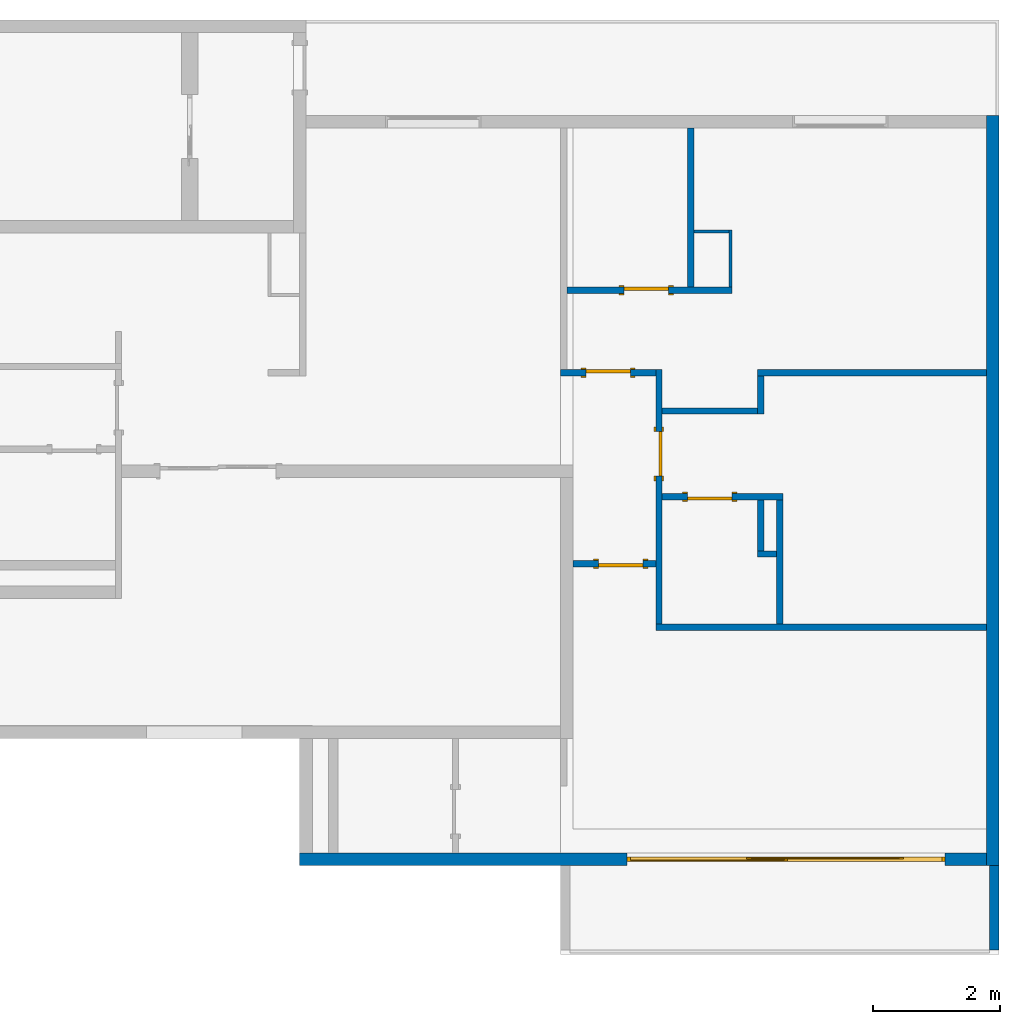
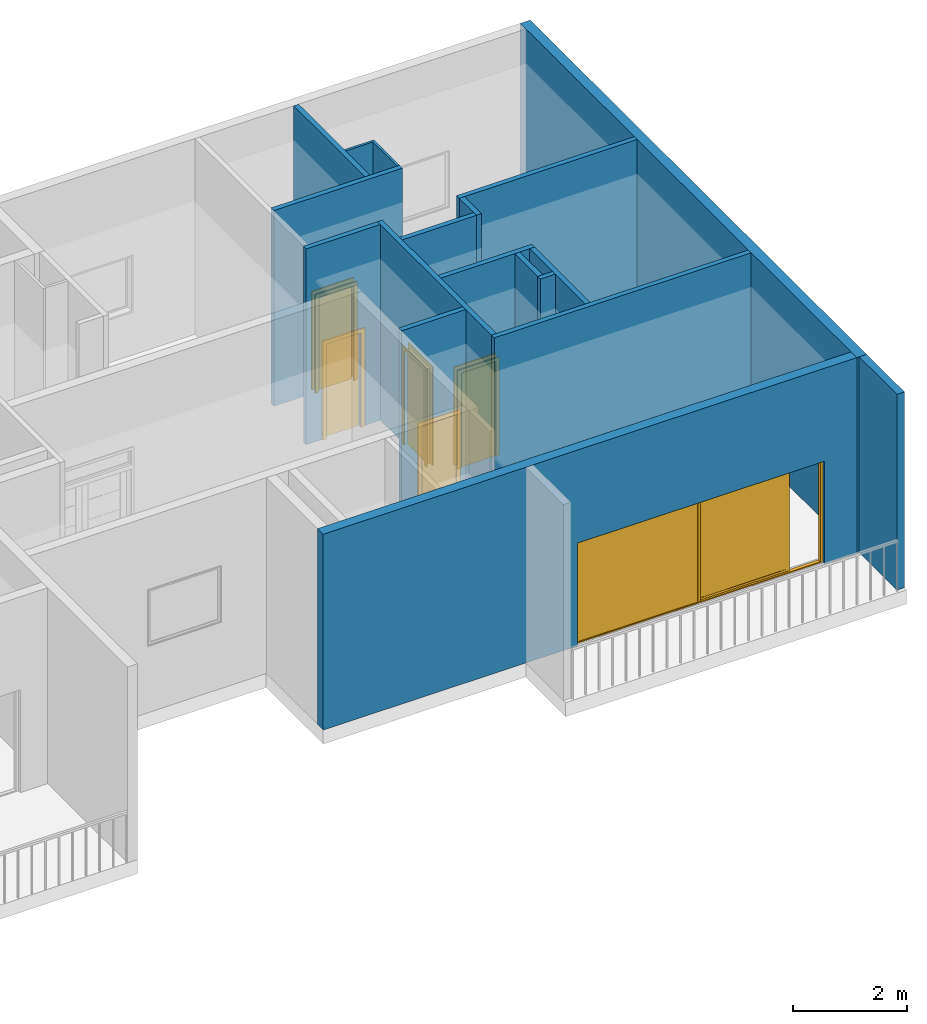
# One storey, part 4 of 7: 18 walls, 6 doors, 6 openings.
"""IFC2X3 building model written with IfcOpenShell, lengths in metres."""

import ifcopenshell
import ifcopenshell.guid

model = None  # the IFC model being written
_history = None  # IfcOwnerHistory: only IFC2X3 demands one
_inside = {}  # id of a spatial element -> (the spatial element, [elements in it])
_under = {}  # id of a project, library or spatial element -> (it, [spatial elements below it])
_declared = {}  # id of a project -> (the project, [libraries it declares])
_typed = {}  # id of a type object -> (the type object, [elements of that type])
_made_of = {}  # id of a material, layer set ... -> (it, [elements and type objects made of it])


def new_model(schema):
    """Start an empty IFC model of exactly this schema.

    Asked for "IFC4X3", IfcOpenShell would pick the latest addendum, in which some entities
    have other attributes; the version numbers below select the first issue.
    IFC2X3 requires an IfcOwnerHistory on every rooted entity: one is made here for all.
    """
    global model, _history
    if schema == "IFC4X3":
        model = ifcopenshell.file(schema_version=(4, 3, 0, 0))
    else:
        model = ifcopenshell.file(schema=schema)
    _inside.clear()
    _under.clear()
    _declared.clear()
    _typed.clear()
    _made_of.clear()
    _history = None
    if model.schema == "IFC2X3":
        org = make("IfcOrganization", Name="unknown")
        user = make(
            "IfcPersonAndOrganization",
            ThePerson=make("IfcPerson", FamilyName="unknown"),
            TheOrganization=org,
        )
        app = make(
            "IfcApplication",
            ApplicationDeveloper=org,
            Version="unknown",
            ApplicationFullName="unknown",
            ApplicationIdentifier="unknown",
        )
        _history = make(
            "IfcOwnerHistory",
            OwningUser=user,
            OwningApplication=app,
            ChangeAction="ADDED",
            CreationDate=0,
        )
    return model


def make(cls, **values):
    """One entity of the class cls with the attributes given. An attribute that is None is left unset."""
    return model.create_entity(
        cls, **{name: value for name, value in values.items() if value is not None}
    )


def entity(cls, *values):
    """Any entity or typed value of the class cls, its attributes in the order of the schema. None: left unset."""
    e = model.create_entity(cls)
    for i, value in enumerate(values):
        if value is not None:
            e[i] = value
    return e


def rooted(cls, **values):
    """An entity with a GlobalId (a new one), such as an element, a storey or a relation."""
    return make(cls, GlobalId=ifcopenshell.guid.new(), OwnerHistory=_history, **values)


def si_unit(unit_type, name, prefix=None):
    """IfcSIUnit, for example si_unit("LENGTHUNIT", "METRE", prefix="MILLI")."""
    return make("IfcSIUnit", UnitType=unit_type, Prefix=prefix, Name=name)


def converted_unit(unit_type, name, factor, base, dimensions=None, offset=None):
    """IfcConversionBasedUnit, such as the inch: factor (a typed value) times the base unit."""
    return make(
        "IfcConversionBasedUnit"
        if offset is None
        else "IfcConversionBasedUnitWithOffset",
        ConversionOffset=offset,
        Dimensions=None
        if dimensions is None
        else entity("IfcDimensionalExponents", *dimensions),
        UnitType=unit_type,
        Name=name,
        ConversionFactor=make(
            "IfcMeasureWithUnit", ValueComponent=factor, UnitComponent=base
        ),
    )


def derived_unit(unit_type, elements):
    """IfcDerivedUnit: a product of units, each with its exponent."""
    return make(
        "IfcDerivedUnit",
        Elements=[
            make("IfcDerivedUnitElement", Unit=unit, Exponent=power)
            for unit, power in elements
        ],
        UnitType=unit_type,
    )


def assignment(units):
    """IfcUnitAssignment: the units of a project."""
    return None if units is None else make("IfcUnitAssignment", Units=units)


def point(xyz):
    """IfcCartesianPoint."""
    return None if xyz is None else make("IfcCartesianPoint", Coordinates=xyz)


def direction(xyz):
    """IfcDirection."""
    return None if xyz is None else make("IfcDirection", DirectionRatios=xyz)


def frame(location, z_axis=None, x_axis=None):
    """IfcAxis2Placement3D, a coordinate frame: its origin and axes. An axis left out is left unset."""
    return make(
        "IfcAxis2Placement3D",
        Location=point(location),
        Axis=direction(z_axis),
        RefDirection=direction(x_axis),
    )


def frame_2d(location, x_axis=None):
    """IfcAxis2Placement2D, a coordinate frame in the plane: its origin and x axis."""
    return make(
        "IfcAxis2Placement2D", Location=point(location), RefDirection=direction(x_axis)
    )


def origin():
    """The frame at (0, 0, 0) with its axes left unset."""
    return frame((0.0, 0.0, 0.0))


def origin_2d_with_axis():
    """The frame at (0, 0) in the plane with the x axis (1, 0) written out."""
    return frame_2d((0.0, 0.0), x_axis=(1.0, 0.0))


def place(relative_to, where):
    """IfcLocalPlacement: puts the frame where relative to a parent placement (None: the world)."""
    return make(
        "IfcLocalPlacement", PlacementRelTo=relative_to, RelativePlacement=where
    )


def context(
    kind, dimensions, precision=None, world=None, true_north=None, identifier=None
):
    """IfcGeometricRepresentationContext, for example the 3D "Model" context."""
    return make(
        "IfcGeometricRepresentationContext",
        ContextIdentifier=identifier,
        ContextType=kind,
        CoordinateSpaceDimension=dimensions,
        Precision=precision,
        WorldCoordinateSystem=world,
        TrueNorth=true_north,
    )


def subcontext(parent, identifier, kind, view, scale=None):
    """IfcGeometricRepresentationSubContext, for example "Body" below "Model"."""
    return make(
        "IfcGeometricRepresentationSubContext",
        ContextIdentifier=identifier,
        ContextType=kind,
        ParentContext=parent,
        TargetScale=scale,
        TargetView=view,
    )


def project(units=None, contexts=None):
    """IfcProject with its units and contexts."""
    return rooted(
        "IfcProject",
        Name="project",
        RepresentationContexts=contexts,
        UnitsInContext=assignment(units),
    )


def spatial(cls, under=None, at=None, **own):
    """A site, building, storey or space (cls), placed at a placement, below another one or the project."""
    s = rooted(cls, ObjectPlacement=at, **own)
    if under is not None:
        _under.setdefault(under.id(), (under, []))[1].append(s)
    return s


def polyline(points):
    """IfcPolyline through the points."""
    return make("IfcPolyline", Points=[point(p) for p in points])


def profile(cls, at=None, kind="AREA", **sizes):
    """A parametric profile (cls). Its sizes go by their IFC names, for example OverallWidth=200.0."""
    return make(cls, ProfileType=kind, Position=at, **sizes)


def rectangle(**sizes):
    """IfcRectangleProfileDef."""
    return profile("IfcRectangleProfileDef", **sizes)


def outline(outer, holes=None, kind="AREA"):
    """IfcArbitraryClosedProfileDef: a profile drawn as a closed curve; with holes, ...WithVoids."""
    if holes is None:
        return make("IfcArbitraryClosedProfileDef", ProfileType=kind, OuterCurve=outer)
    return make(
        "IfcArbitraryProfileDefWithVoids",
        ProfileType=kind,
        OuterCurve=outer,
        InnerCurves=holes,
    )


def extrude(swept, where, along, depth):
    """IfcExtrudedAreaSolid: the profile swept, set in the frame where, extruded along a direction by depth."""
    return make(
        "IfcExtrudedAreaSolid",
        SweptArea=swept,
        Position=where,
        ExtrudedDirection=direction(along),
        Depth=depth,
    )


def faces_of(points, faces, orient=None, outer=None):
    """IfcFace entities. A face is a list of loops; a loop is a list of indices into points, from 0.

    orient and outer hold one flag for each loop. By default every Orientation is true, the
    first loop of a face is its IfcFaceOuterBound and the others are IfcFaceBound.
    """
    made = []
    for i, loops in enumerate(faces):
        bounds = []
        for j, loop in enumerate(loops):
            is_outer = j == 0 if outer is None else outer[i][j]
            bounds.append(
                make(
                    "IfcFaceOuterBound" if is_outer else "IfcFaceBound",
                    Bound=make("IfcPolyLoop", Polygon=[points[k] for k in loop]),
                    Orientation=True if orient is None else orient[i][j],
                )
            )
        made.append(make("IfcFace", Bounds=bounds))
    return made


def faceted_brep(points, faces, orient=None, outer=None, voids=None):
    """IfcFacetedBrep: a solid bounded by flat faces; with voids (closed shells), ...WithVoids."""
    shared = [point(p) for p in points]
    hull = make("IfcClosedShell", CfsFaces=faces_of(shared, faces, orient, outer))
    if voids is None:
        return make("IfcFacetedBrep", Outer=hull)
    return make(
        "IfcFacetedBrepWithVoids",
        Outer=hull,
        Voids=[
            make(cls, CfsFaces=faces_of(shared, fs, o, b)) for cls, fs, o, b in voids
        ],
    )


def shape(context_of_items, identifier, shape_type, items):
    """IfcShapeRepresentation: the items that make up one representation, for example the "Body"."""
    return make(
        "IfcShapeRepresentation",
        ContextOfItems=context_of_items,
        RepresentationIdentifier=identifier,
        RepresentationType=shape_type,
        Items=items,
    )


def source(mapping_origin, context_of_items, identifier, shape_type, items):
    """IfcRepresentationMap: a shape defined once, which mapped items show again and again."""
    return make(
        "IfcRepresentationMap",
        MappingOrigin=mapping_origin,
        MappedRepresentation=shape(context_of_items, identifier, shape_type, items),
    )


def transform(
    local_origin,
    x_axis=None,
    y_axis=None,
    z_axis=None,
    scale=None,
    scale2=None,
    scale3=None,
    uniform=True,
):
    """IfcCartesianTransformationOperator3D, or its non-uniform kind. x_axis, y_axis, z_axis: its Axis1, 2, 3."""
    if uniform:
        return make(
            "IfcCartesianTransformationOperator3D",
            Axis1=direction(x_axis),
            Axis2=direction(y_axis),
            LocalOrigin=point(local_origin),
            Scale=scale,
            Axis3=direction(z_axis),
        )
    return make(
        "IfcCartesianTransformationOperator3DnonUniform",
        Axis1=direction(x_axis),
        Axis2=direction(y_axis),
        LocalOrigin=point(local_origin),
        Scale=scale,
        Axis3=direction(z_axis),
        Scale2=scale2,
        Scale3=scale3,
    )


def mapped(mapping_source, mapping_target):
    """IfcMappedItem: shows the shape of a source again, moved by a transform."""
    return make(
        "IfcMappedItem", MappingSource=mapping_source, MappingTarget=mapping_target
    )


def material(Name=None, Category=None):
    """IfcMaterial."""
    return make("IfcMaterial", Name=Name, Category=Category)


def material_list(materials):
    """IfcMaterialList."""
    return make("IfcMaterialList", Materials=materials)


def layer(
    of_material, thickness, ventilated=None, Name=None, Category=None, Priority=None
):
    """IfcMaterialLayer: one layer of a wall or slab, of a material (None: an air gap)."""
    return make(
        "IfcMaterialLayer",
        Material=of_material,
        LayerThickness=thickness,
        IsVentilated=ventilated,
        Name=Name,
        Category=Category,
        Priority=Priority,
    )


def layer_set(layers, Name=None):
    """IfcMaterialLayerSet."""
    return make("IfcMaterialLayerSet", MaterialLayers=layers, LayerSetName=Name)


def layer_usage(for_layer_set, set_direction, sense, offset, extent=None):
    """IfcMaterialLayerSetUsage: how a layer set lies in its element."""
    return make(
        "IfcMaterialLayerSetUsage",
        ForLayerSet=for_layer_set,
        LayerSetDirection=set_direction,
        DirectionSense=sense,
        OffsetFromReferenceLine=offset,
        ReferenceExtent=extent,
    )


def made_of(thing, what):
    """Note that an element or type object is made of a material, layer set ...; save() writes the relation."""
    if what is not None:
        _made_of.setdefault(what.id(), (what, []))[1].append(thing)
    return thing


def type_object(cls, material=None, **own):
    """A type object (cls), such as IfcWallType, which elements share."""
    return made_of(rooted(cls, **own), material)


def type_shapes(of_type, sources):
    """Give a type object the sources (RepresentationMaps) that its elements show as mapped items."""
    of_type.RepresentationMaps = sources


def element(
    cls,
    number,
    at=None,
    inside=None,
    cuts=None,
    type_object=None,
    material=None,
    context=None,
    identifier="Body",
    shape_type=None,
    held_by="IfcProductDefinitionShape",
    body=None,
    shapes=None,
    **own,
):
    """One element of the class cls, such as IfcWall. Its Tag is "e" and its number.

    at: its placement. inside: the storey or other place that contains it. cuts: it is an
    opening in that element (IfcRelVoidsElement). A single representation is given by context,
    identifier, shape_type and body (its items); several are given by shapes. held_by: the class
    of the entity that holds the representations. save() writes the other relations.
    """
    e = rooted(cls, Tag="e%d" % number, ObjectPlacement=at, **own)
    if body is not None:
        shapes = [shape(context, identifier, shape_type, body)]
    if shapes is not None:
        e.Representation = make(held_by, Representations=shapes)
    if inside is not None:
        _inside.setdefault(inside.id(), (inside, []))[1].append(e)
    if cuts is not None:
        rooted(
            "IfcRelVoidsElement", RelatingBuildingElement=cuts, RelatedOpeningElement=e
        )
    if type_object is not None:
        _typed.setdefault(type_object.id(), (type_object, []))[1].append(e)
    return made_of(e, material)


def fill(opening, filler):
    """IfcRelFillsElement: the door or window that sits in an opening."""
    return rooted(
        "IfcRelFillsElement",
        RelatingOpeningElement=opening,
        RelatedBuildingElement=filler,
    )


def aggregate(whole, parts):
    """IfcRelAggregates: a whole, such as a stair, and the parts it consists of."""
    return rooted("IfcRelAggregates", RelatingObject=whole, RelatedObjects=parts)


def save(model, path):
    """Write the relations noted so far, then the file.

    IfcRelAggregates (storeys below a building ...), IfcRelContainedInSpatialStructure (elements
    in a storey), IfcRelDefinesByType, IfcRelAssociatesMaterial and IfcRelDeclares: one each for
    every whole, place, type object, material and project.
    """
    for whole, parts in _under.values():
        aggregate(whole, parts)
    for where, things in _inside.values():
        rooted(
            "IfcRelContainedInSpatialStructure",
            RelatedElements=things,
            RelatingStructure=where,
        )
    for kind, things in _typed.values():
        rooted("IfcRelDefinesByType", RelatedObjects=things, RelatingType=kind)
    for what, things in _made_of.values():
        rooted("IfcRelAssociatesMaterial", RelatedObjects=things, RelatingMaterial=what)
    for by, libraries in _declared.values():
        rooted("IfcRelDeclares", RelatingContext=by, RelatedDefinitions=libraries)
    model.write(path)


model = new_model("IFC2X3")

# Units and contexts
model_context = context("Model", 3, precision=1e-05, world=origin(), true_north=direction((6.123031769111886e-17, 1.0)))
body_context = subcontext(model_context, "Body", "Model", "MODEL_VIEW")
ifc_project = project(units=[si_unit("LENGTHUNIT", "METRE"), si_unit("AREAUNIT", "SQUARE_METRE"), si_unit("VOLUMEUNIT", "CUBIC_METRE"), converted_unit("PLANEANGLEUNIT", "DEGREE", entity("IfcRatioMeasure", 0.017453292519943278), si_unit("PLANEANGLEUNIT", "RADIAN"), dimensions=[0, 0, 0, 0, 0, 0, 0]), si_unit("MASSUNIT", "GRAM", prefix="KILO"), derived_unit("MASSDENSITYUNIT", [(si_unit("MASSUNIT", "GRAM", prefix="KILO"), 1), (si_unit("LENGTHUNIT", "METRE"), -3)]), derived_unit("MOMENTOFINERTIAUNIT", [(si_unit("LENGTHUNIT", "METRE"), 4)]), si_unit("TIMEUNIT", "SECOND"), si_unit("FREQUENCYUNIT", "HERTZ"), si_unit("THERMODYNAMICTEMPERATUREUNIT", "DEGREE_CELSIUS"), derived_unit("THERMALTRANSMITTANCEUNIT", [(si_unit("MASSUNIT", "GRAM", prefix="KILO"), 1), (si_unit("THERMODYNAMICTEMPERATUREUNIT", "KELVIN"), -1), (si_unit("TIMEUNIT", "SECOND"), -3)]), derived_unit("VOLUMETRICFLOWRATEUNIT", [(si_unit("LENGTHUNIT", "METRE"), 3), (si_unit("TIMEUNIT", "SECOND"), -1)]), derived_unit("MASSFLOWRATEUNIT", [(si_unit("MASSUNIT", "GRAM", prefix="KILO"), 1), (si_unit("TIMEUNIT", "SECOND"), -1)]), derived_unit("ROTATIONALFREQUENCYUNIT", [(si_unit("TIMEUNIT", "SECOND"), -1)]), si_unit("ELECTRICCURRENTUNIT", "AMPERE"), si_unit("ELECTRICVOLTAGEUNIT", "VOLT"), si_unit("POWERUNIT", "WATT"), si_unit("FORCEUNIT", "NEWTON", prefix="KILO"), si_unit("ILLUMINANCEUNIT", "LUX"), si_unit("LUMINOUSFLUXUNIT", "LUMEN"), si_unit("LUMINOUSINTENSITYUNIT", "CANDELA"), derived_unit("USERDEFINED", [(si_unit("MASSUNIT", "GRAM", prefix="KILO"), -1), (si_unit("LENGTHUNIT", "METRE"), -2), (si_unit("TIMEUNIT", "SECOND"), 3), (si_unit("LUMINOUSFLUXUNIT", "LUMEN"), 1)]), derived_unit("SOUNDPOWERUNIT", [(si_unit("MASSUNIT", "GRAM", prefix="KILO"), 1), (si_unit("LENGTHUNIT", "METRE"), 2), (si_unit("TIMEUNIT", "SECOND"), -3)]), derived_unit("SOUNDPRESSUREUNIT", [(si_unit("MASSUNIT", "GRAM", prefix="KILO"), 1), (si_unit("LENGTHUNIT", "METRE"), -1), (si_unit("TIMEUNIT", "SECOND"), -2)]), derived_unit("LINEARVELOCITYUNIT", [(si_unit("LENGTHUNIT", "METRE"), 1), (si_unit("TIMEUNIT", "SECOND"), -1)]), si_unit("PRESSUREUNIT", "PASCAL"), derived_unit("USERDEFINED", [(si_unit("LENGTHUNIT", "METRE"), -2), (si_unit("MASSUNIT", "GRAM", prefix="KILO"), 1), (si_unit("TIMEUNIT", "SECOND"), -2)]), derived_unit("LINEARFORCEUNIT", [(si_unit("MASSUNIT", "GRAM", prefix="KILO"), 1), (si_unit("LENGTHUNIT", "METRE"), 1), (si_unit("TIMEUNIT", "SECOND"), -2), (si_unit("LENGTHUNIT", "METRE"), -1)]), derived_unit("PLANARFORCEUNIT", [(si_unit("MASSUNIT", "GRAM", prefix="KILO"), 1), (si_unit("LENGTHUNIT", "METRE"), 1), (si_unit("TIMEUNIT", "SECOND"), -2), (si_unit("LENGTHUNIT", "METRE"), -2)])], contexts=[model_context])

# Site, building, storey
site_placement = place(None, origin())
site = spatial("IfcSite", under=ifc_project, at=site_placement, Name="Default", CompositionType="ELEMENT")
building_placement = place(site_placement, origin())
building = spatial("IfcBuilding", under=site, at=building_placement, CompositionType="ELEMENT")
storey_placement = place(building_placement, frame((0.0, 0.0, 5.639999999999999)))
storey = spatial("IfcBuildingStorey", under=building, at=storey_placement, Name="F1", CompositionType="ELEMENT", Elevation=5.639999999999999)

# Wall
ifc_material_1 = material(Name="Masonry - Concrete Block")
ifc_layer_1 = layer(ifc_material_1, 0.2)
ifc_layer_set_1 = layer_set([ifc_layer_1], Name="Basic Wall:CW 200")
ifc_layer_usage_1 = layer_usage(ifc_layer_set_1, "AXIS2", "NEGATIVE", 0.1)
wall_type_1 = type_object("IfcWallType", Name="Basic Wall:CW 200", PredefinedType="STANDARD", material=ifc_layer_set_1)
wall_1_placement = place(storey_placement, frame((28.807683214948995, -7.2973929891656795, 0.0), z_axis=(0.0, 0.0, 1.0), x_axis=(0.0, 1.0, 0.0)))
element("IfcWallStandardCase", 1, at=wall_1_placement, inside=storey, type_object=wall_type_1, material=ifc_layer_usage_1, Name="Basic Wall:CW 200", ObjectType="Basic Wall:CW 200", context=body_context, shape_type="SweptSolid", body=[
    extrude(rectangle(XDim=11.800000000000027, YDim=0.19999999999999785, at=frame_2d((5.900000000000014, 0.0), x_axis=(-1.0, 0.0))), origin(), (0.0, 0.0, 1.0), 4.19),
])

# Wall, opening, door
ifc_layer_usage_2 = layer_usage(ifc_layer_set_1, "AXIS2", "NEGATIVE", 0.1)
wall_2_placement = place(storey_placement, frame((28.707683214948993, -7.197392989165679, 0.0), z_axis=(0.0, 0.0, 1.0), x_axis=(-1.0, 0.0, 0.0)))
wall_2 = element("IfcWallStandardCase", 2, at=wall_2_placement, inside=storey, type_object=wall_type_1, material=ifc_layer_usage_2, Name="Basic Wall:CW 200", ObjectType="Basic Wall:CW 200", context=body_context, shape_type="SweptSolid", body=[
    extrude(rectangle(XDim=10.799999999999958, YDim=0.2, at=frame_2d((5.399999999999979, 3.3306690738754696e-16), x_axis=(1.0, 0.0))), origin(), (0.0, 0.0, 1.0), 4.19),
])
opening_1_placement = place(wall_2_placement, frame((5.6499999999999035, 0.09999999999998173, 0.0)))
opening_1 = element("IfcOpeningElement", 3, at=opening_1_placement, cuts=wall_2, Name="Parametric_Operable_Sliding_Door_6386.0004:5M:1", ObjectType="Opening", context=body_context, shape_type="SweptSolid", body=[
    extrude(rectangle(XDim=2.199999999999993, YDim=4.999999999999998, at=frame_2d((1.0999999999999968, 2.499999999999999), x_axis=(1.0, 0.0))), frame((0.0, 0.0, 0.0), z_axis=(0.0, -1.0, 0.0), x_axis=(0.0, 0.0, 1.0)), (0.0, 0.0, 1.0), 0.2),
])
ifc_material_2 = material(Name="Window Glass")
ifc_material_3 = material(Name="Window Frame")
ifc_material_list_1 = material_list([ifc_material_2, ifc_material_3, ifc_material_2, ifc_material_3])
ifc_material_list_2 = material_list([ifc_material_2, ifc_material_3, ifc_material_2, ifc_material_3])
door_style_1 = type_object("IfcDoorStyle", Name="Parametric_Operable_Sliding_Door_6386.0004:5M", ConstructionType="NOTDEFINED", OperationType="NOTDEFINED", ParameterTakesPrecedence=False, Sizeable=False, material=ifc_material_list_2)
shared_shape_1 = source(origin(), body_context, "Body", "Brep", [
    faceted_brep([(0.7200000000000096, 0.0875000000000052, 2.080000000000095), (0.7200000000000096, 0.0875000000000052, 0.07000000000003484), (0.7200000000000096, 0.0775000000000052, 0.07000000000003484), (0.7200000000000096, 0.0775000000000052, 2.080000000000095), (3.0550000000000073, 0.0875000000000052, 2.080000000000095), (3.0550000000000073, 0.0875000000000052, 0.07000000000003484), (3.0550000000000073, 0.0775000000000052, 0.07000000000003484), (3.0550000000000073, 0.0775000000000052, 2.080000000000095)], [[[0, 1, 2, 3]], [[1, 0, 4, 5]], [[2, 1, 5, 6]], [[3, 2, 6, 7]], [[4, 7, 6, 5]], [[0, 3, 7, 4]]]),
    faceted_brep([(0.7200000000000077, 0.09499999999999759, 0.06999999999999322), (0.7200000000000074, 0.06999999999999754, 0.06999999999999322), (3.055000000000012, 0.06999999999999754, 0.06999999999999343), (3.055000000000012, 0.09499999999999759, 0.0699999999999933), (0.7200000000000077, 0.09499999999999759, 2.080000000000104), (0.7200000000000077, 0.06999999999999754, 2.080000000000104), (3.05500000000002, 0.09499999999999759, 2.080000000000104), (3.125000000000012, 0.09499999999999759, 2.150000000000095), (3.125000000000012, 0.09499999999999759, 0.02500000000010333), (0.6500000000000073, 0.09499999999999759, 0.0250000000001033), (0.6500000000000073, 0.09499999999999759, 2.1499999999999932), (3.055000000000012, 0.06999999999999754, 2.080000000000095), (0.6500000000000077, 0.06999999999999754, 2.1500000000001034), (0.6500000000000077, 0.06999999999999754, 0.02500000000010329), (3.125000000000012, 0.06999999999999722, 0.02500000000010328), (3.125000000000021, 0.06999999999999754, 2.1499999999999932), (0.04999999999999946, 0.06500000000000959, 0.02500000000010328), (4.949999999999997, 0.06499999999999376, 0.025000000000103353), (4.949999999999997, 0.13499999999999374, 0.025000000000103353), (0.05, 0.13500000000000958, 0.02500000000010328), (5.0, 0.0649999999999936, 0.0), (5.0, 0.0649999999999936, 2.199999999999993), (0.0, 0.06500000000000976, 2.199999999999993), (0.0, 0.06500000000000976, 0.0), (0.05, 0.06500000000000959, 2.1499999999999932), (4.949999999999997, 0.06499999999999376, 2.1499999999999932), (0.0, 0.13500000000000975, 0.0), (5.0, 0.1349999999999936, 0.0), (0.0, 0.13500000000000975, 2.199999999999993), (5.0, 0.1349999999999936, 2.199999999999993), (0.05, 0.13500000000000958, 2.1499999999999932), (4.949999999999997, 0.13499999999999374, 2.1499999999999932)], [[[0, 1, 2, 3]], [[1, 0, 4, 5]], [[4, 0, 3, 6], [7, 8, 9, 10]], [[1, 5, 11, 2], [12, 13, 14, 15]], [[13, 12, 10, 9]], [[13, 9, 8, 14], [16, 17, 18, 19]], [[11, 6, 3, 2]], [[15, 14, 8, 7]], [[20, 21, 22, 23], [24, 25, 17, 16]], [[20, 23, 26, 27]], [[23, 22, 28, 26]], [[27, 26, 28, 29], [30, 19, 18, 31]], [[21, 20, 27, 29]], [[17, 25, 31, 18]], [[24, 16, 19, 30]], [[5, 4, 6, 11]], [[22, 21, 29, 28]], [[10, 12, 15, 7], [25, 24, 30, 31]]], outer=[[True], [True], [False, True], [False, True], [True], [False, True], [True], [True], [True, False], [True], [True], [True, False], [True], [True], [True], [True], [True], [False, True]]),
    faceted_brep([(2.5249999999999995, 0.11499999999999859, 2.1499999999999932), (2.5249999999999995, 0.11499999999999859, 0.02500000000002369), (4.949999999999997, 0.11499999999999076, 0.02500000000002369), (4.949999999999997, 0.11499999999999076, 2.1499999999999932), (2.5249999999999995, 0.12099999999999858, 2.1499999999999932), (2.5249999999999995, 0.12099999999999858, 0.02500000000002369), (4.949999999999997, 0.12099999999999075, 0.02500000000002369), (4.949999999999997, 0.12099999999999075, 2.1499999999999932)], [[[0, 1, 2, 3]], [[1, 0, 4, 5]], [[2, 1, 5, 6]], [[3, 2, 6, 7]], [[4, 7, 6, 5]], [[0, 3, 7, 4]]]),
    faceted_brep([(2.474999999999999, 0.09999999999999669, 2.1499999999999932), (2.474999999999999, 0.09999999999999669, 0.025000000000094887), (2.5249999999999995, 0.09999999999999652, 0.02500000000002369), (2.5249999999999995, 0.09999999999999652, 2.1499999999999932), (2.474999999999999, 0.1300000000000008, 2.1499999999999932), (2.474999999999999, 0.1300000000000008, 0.025000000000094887), (2.5249999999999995, 0.13000000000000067, 0.02500000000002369), (2.5249999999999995, 0.13000000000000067, 2.1499999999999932)], [[[0, 1, 2, 3]], [[1, 0, 4, 5]], [[2, 1, 5, 6]], [[3, 2, 6, 7]], [[4, 7, 6, 5]], [[0, 3, 7, 4]]]),
])
type_shapes(door_style_1, [shared_shape_1])
door_1_placement = place(opening_1_placement, frame((-5.0, -0.1999999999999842, 0.0)))
door_1 = element("IfcDoor", 4, at=door_1_placement, inside=storey, type_object=door_style_1, material=ifc_material_list_1, Name="Parametric_Operable_Sliding_Door_6386.0004:5M", ObjectType="Parametric_Operable_Sliding_Door_6386.0004:5M", OverallHeight=2.1999999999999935, OverallWidth=4.999999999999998, context=body_context, shape_type="MappedRepresentation", body=[
    mapped(shared_shape_1, transform((0.0, 0.0, 0.0), scale=1.0)),
])
fill(opening_1, door_1)

# Wall
ifc_layer_2 = layer(ifc_material_1, 0.1)
ifc_layer_set_2 = layer_set([ifc_layer_2], Name="Basic Wall:CW 100")
ifc_layer_usage_3 = layer_usage(ifc_layer_set_2, "AXIS2", "NEGATIVE", 0.05)
wall_type_2 = type_object("IfcWallType", Name="Basic Wall:CW 100", PredefinedType="STANDARD", material=ifc_layer_set_2)
wall_3_placement = place(storey_placement, frame((28.707683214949, -3.5473929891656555, 0.0), z_axis=(0.0, 0.0, 1.0), x_axis=(-1.0, 0.0, 0.0)))
element("IfcWallStandardCase", 5, at=wall_3_placement, inside=storey, type_object=wall_type_2, material=ifc_layer_usage_3, Name="Basic Wall:CW 100", ObjectType="Basic Wall:CW 100", context=body_context, shape_type="SweptSolid", body=[
    extrude(rectangle(XDim=5.199999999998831, YDim=0.1, at=frame_2d((2.5999999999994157, -1.1102230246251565e-16), x_axis=(-1.0, 0.0))), origin(), (0.0, 0.0, 1.0), 4.19),
])

# Wall, opening, door
ifc_layer_usage_4 = layer_usage(ifc_layer_set_2, "AXIS2", "NEGATIVE", 0.05)
wall_4_placement = place(storey_placement, frame((23.55768321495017, -3.4973929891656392, 0.0), z_axis=(0.0, 0.0, 1.0), x_axis=(0.0, 1.0, 0.0)))
wall_4 = element("IfcWallStandardCase", 6, at=wall_4_placement, inside=storey, type_object=wall_type_2, material=ifc_layer_usage_4, Name="Basic Wall:CW 100", ObjectType="Basic Wall:CW 100", context=body_context, shape_type="SweptSolid", body=[
    extrude(rectangle(XDim=3.9999999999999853, YDim=0.09999999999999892, at=frame_2d((1.999999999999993, 2.1649348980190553e-15), x_axis=(1.0, 0.0))), origin(), (0.0, 0.0, 1.0), 4.19),
])
opening_2_placement = place(wall_4_placement, frame((3.0250000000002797, 0.04999999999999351, 0.0)))
opening_2 = element("IfcOpeningElement", 7, at=opening_2_placement, cuts=wall_4, Name="M_Single-Flush:0762 x 2032mm:1", ObjectType="Opening", context=body_context, shape_type="SweptSolid", body=[
    extrude(rectangle(XDim=0.6999999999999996, YDim=2.0319999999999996, at=frame_2d((1.0159999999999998, 0.3499999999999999), x_axis=(0.0, 1.0))), frame((0.0, 0.0, 0.0), z_axis=(0.0, -1.0, 0.0), x_axis=(0.0, 0.0, 1.0)), (0.0, 0.0, 1.0), 0.1),
])
ifc_material_4 = material(Name="Door - Frame")
ifc_material_5 = material(Name="Door - Panel")
ifc_material_list_3 = material_list([ifc_material_4, ifc_material_5])
ifc_material_list_4 = material_list([ifc_material_4, ifc_material_4, ifc_material_5])
door_style_2 = type_object("IfcDoorStyle", Name="M_Single-Flush:0762 x 2032mm", ConstructionType="NOTDEFINED", OperationType="NOTDEFINED", ParameterTakesPrecedence=False, Sizeable=False, material=ifc_material_list_4)
shared_shape_2 = source(origin(), body_context, "Body", "SweptSolid", [
    extrude(outline(polyline([(-0.426, -1.0729999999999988), (0.4259999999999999, -1.0729999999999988), (0.4259999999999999, 1.0350000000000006), (0.3499999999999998, 1.0350000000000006), (0.3499999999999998, -0.9970000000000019), (-0.3499999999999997, -0.9970000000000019), (-0.3499999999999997, 1.0350000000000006), (-0.426, 1.0350000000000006), (-0.426, -1.0729999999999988)])), frame((0.3500000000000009, 0.10000000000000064, 1.0350000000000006), z_axis=(0.0, 1.0, 0.0), x_axis=(1.0, 0.0, 0.0)), (0.0, 0.0, 1.0), 0.024999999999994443),
    extrude(outline(polyline([(-1.0729999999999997, -0.42599999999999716), (1.0349999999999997, -0.42599999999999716), (1.0349999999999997, -0.3500000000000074), (-0.9969999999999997, -0.3500000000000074), (-0.9969999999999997, 0.35000000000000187), (1.0349999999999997, 0.35000000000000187), (1.0349999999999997, 0.4260000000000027), (-1.0729999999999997, 0.4260000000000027), (-1.0729999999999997, -0.42599999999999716)])), frame((0.35000000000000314, -0.025000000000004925, 1.0349999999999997), z_axis=(0.0, 1.0, 0.0), x_axis=(0.0, 0.0, -1.0)), (0.0, 0.0, 1.0), 0.025000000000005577),
    extrude(rectangle(XDim=0.051000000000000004, YDim=0.6999999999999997, at=origin_2d_with_axis()), frame((0.3500000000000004, 0.07450000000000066, 0.0), z_axis=(0.0, 0.0, 1.0), x_axis=(0.0, 1.0, 0.0)), (0.0, 0.0, 1.0), 2.0319999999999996),
])
type_shapes(door_style_2, [shared_shape_2])
door_2_placement = place(opening_2_placement, frame((0.0, 0.0, 0.0), z_axis=(0.0, 0.0, 1.0), x_axis=(-1.0, 0.0, 0.0)))
door_2 = element("IfcDoor", 8, at=door_2_placement, inside=storey, type_object=door_style_2, material=ifc_material_list_3, Name="M_Single-Flush:0762 x 2032mm", ObjectType="M_Single-Flush:0762 x 2032mm", OverallHeight=2.0319999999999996, OverallWidth=0.7000000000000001, context=body_context, shape_type="MappedRepresentation", body=[
    mapped(shared_shape_2, transform((0.0, 0.0, 0.0), scale=1.0)),
])
fill(opening_2, door_2)

ifc_layer_usage_5 = layer_usage(ifc_layer_set_2, "AXIS2", "NEGATIVE", 0.05)
wall_5_placement = place(storey_placement, frame((23.507683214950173, 0.45260701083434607, 0.0), z_axis=(0.0, 0.0, 1.0), x_axis=(-1.0, 0.0, 0.0)))
wall_5 = element("IfcWallStandardCase", 9, at=wall_5_placement, inside=storey, type_object=wall_type_2, material=ifc_layer_usage_5, Name="Basic Wall:CW 100", ObjectType="Basic Wall:CW 100", context=body_context, shape_type="SweptSolid", body=[
    extrude(rectangle(XDim=1.5000000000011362, YDim=0.09999999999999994, at=frame_2d((0.750000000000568, 6.938893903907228e-17), x_axis=(1.0, 0.0))), origin(), (0.0, 0.0, 1.0), 4.19),
])
opening_3_placement = place(wall_5_placement, frame((1.100000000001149, 0.049999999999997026, 0.0)))
opening_3 = element("IfcOpeningElement", 10, at=opening_3_placement, cuts=wall_5, Name="M_Single-Flush:0762 x 2032mm:1", ObjectType="Opening", context=body_context, shape_type="SweptSolid", body=[
    extrude(rectangle(XDim=0.6999999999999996, YDim=2.0319999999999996, at=frame_2d((1.0159999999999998, 0.3499999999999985), x_axis=(0.0, 1.0))), frame((0.0, 0.0, 0.0), z_axis=(0.0, -1.0, 0.0), x_axis=(0.0, 0.0, 1.0)), (0.0, 0.0, 1.0), 0.1),
])
ifc_material_list_5 = material_list([ifc_material_4, ifc_material_4, ifc_material_5])
door_3_placement = place(opening_3_placement, frame((0.0, 0.0, 0.0), z_axis=(0.0, 0.0, 1.0), x_axis=(-1.0, 0.0, 0.0)))
door_3 = element("IfcDoor", 11, at=door_3_placement, inside=storey, type_object=door_style_2, material=ifc_material_list_5, Name="M_Single-Flush:0762 x 2032mm", ObjectType="M_Single-Flush:0762 x 2032mm", OverallHeight=2.0319999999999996, OverallWidth=0.7000000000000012, context=body_context, shape_type="MappedRepresentation", body=[
    mapped(shared_shape_2, transform((0.0, 0.0, 0.0), scale=1.0)),
])
fill(opening_3, door_3)

ifc_layer_usage_6 = layer_usage(ifc_layer_set_2, "AXIS2", "NEGATIVE", 0.05)
wall_6_placement = place(storey_placement, frame((22.10768321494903, 1.7526070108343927, 0.0)))
wall_6 = element("IfcWallStandardCase", 12, at=wall_6_placement, inside=storey, type_object=wall_type_2, material=ifc_layer_usage_6, Name="Basic Wall:CW 100", ObjectType="Basic Wall:CW 100", context=body_context, shape_type="SweptSolid", body=[
    extrude(rectangle(XDim=2.6000000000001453, YDim=0.1, at=frame_2d((1.300000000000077, 7.632783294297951e-17), x_axis=(1.0, 0.0))), origin(), (0.0, 0.0, 1.0), 4.19),
])
opening_4_placement = place(wall_6_placement, frame((0.8999999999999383, -0.05000000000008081, 0.0)))
opening_4 = element("IfcOpeningElement", 13, at=opening_4_placement, cuts=wall_6, Name="M_Single-Flush:0762 x 2032mm:1", ObjectType="Opening", context=body_context, shape_type="SweptSolid", body=[
    extrude(rectangle(XDim=0.6999999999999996, YDim=2.0319999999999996, at=frame_2d((1.0159999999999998, 0.3499999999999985), x_axis=(0.0, 1.0))), frame((0.0, 0.0, 0.0), z_axis=(0.0, 1.0, 0.0), x_axis=(0.0, 0.0, 1.0)), (0.0, 0.0, 1.0), 0.1),
])
ifc_material_list_6 = material_list([ifc_material_4, ifc_material_5])
door_4_placement = place(opening_4_placement, origin())
door_4 = element("IfcDoor", 14, at=door_4_placement, inside=storey, type_object=door_style_2, material=ifc_material_list_6, Name="M_Single-Flush:0762 x 2032mm", ObjectType="M_Single-Flush:0762 x 2032mm", OverallHeight=2.0319999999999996, OverallWidth=0.7000000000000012, context=body_context, shape_type="MappedRepresentation", body=[
    mapped(shared_shape_2, transform((0.0, 0.0, 0.0), scale=1.0)),
])
fill(opening_4, door_4)

# Wall
ifc_layer_usage_7 = layer_usage(ifc_layer_set_2, "AXIS2", "NEGATIVE", 0.05)
wall_7_placement = place(storey_placement, frame((24.057683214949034, 1.8026070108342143, 0.0), z_axis=(0.0, 0.0, 1.0), x_axis=(0.0, 1.0, 0.0)))
element("IfcWallStandardCase", 15, at=wall_7_placement, inside=storey, type_object=wall_type_2, material=ifc_layer_usage_7, Name="Basic Wall:CW 100", ObjectType="Basic Wall:CW 100", context=body_context, shape_type="SweptSolid", body=[
    extrude(rectangle(XDim=2.5000000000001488, YDim=0.10000000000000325, at=frame_2d((1.2500000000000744, -8.326672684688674e-17), x_axis=(-1.0, 0.0))), origin(), (0.0, 0.0, 1.0), 4.19),
])

# Wall, opening, door
ifc_layer_usage_8 = layer_usage(ifc_layer_set_2, "AXIS2", "NEGATIVE", 0.05)
wall_8_placement = place(storey_placement, frame((23.507683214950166, -2.547392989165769, 0.0), z_axis=(0.0, 0.0, 1.0), x_axis=(-1.0, 0.0, 0.0)))
wall_8 = element("IfcWallStandardCase", 16, at=wall_8_placement, inside=storey, type_object=wall_type_2, material=ifc_layer_usage_8, Name="Basic Wall:CW 100", ObjectType="Basic Wall:CW 100", context=body_context, shape_type="SweptSolid", body=[
    extrude(rectangle(XDim=1.3000000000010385, YDim=0.1, at=frame_2d((0.6500000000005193, 0.0), x_axis=(1.0, 0.0))), origin(), (0.0, 0.0, 1.0), 4.19),
])
opening_5_placement = place(wall_8_placement, frame((0.1999999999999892, -0.05000000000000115, 0.0)))
opening_5 = element("IfcOpeningElement", 17, at=opening_5_placement, cuts=wall_8, Name="M_Single-Flush:0762 x 2032mm:1", ObjectType="Opening", context=body_context, shape_type="SweptSolid", body=[
    extrude(rectangle(XDim=0.6999999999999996, YDim=2.0319999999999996, at=frame_2d((1.0159999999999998, 0.3499999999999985), x_axis=(0.0, 1.0))), frame((0.0, 0.0, 0.0), z_axis=(0.0, 1.0, 0.0), x_axis=(0.0, 0.0, 1.0)), (0.0, 0.0, 1.0), 0.1),
])
ifc_material_list_7 = material_list([ifc_material_4, ifc_material_5])
door_5_placement = place(opening_5_placement, origin())
door_5 = element("IfcDoor", 18, at=door_5_placement, inside=storey, type_object=door_style_2, material=ifc_material_list_7, Name="M_Single-Flush:0762 x 2032mm", ObjectType="M_Single-Flush:0762 x 2032mm", OverallHeight=2.0319999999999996, OverallWidth=0.7000000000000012, context=body_context, shape_type="MappedRepresentation", body=[
    mapped(shared_shape_2, transform((0.0, 0.0, 0.0), scale=1.0)),
])
fill(opening_5, door_5)

ifc_layer_usage_9 = layer_usage(ifc_layer_set_2, "AXIS2", "NEGATIVE", 0.05)
wall_9_placement = place(storey_placement, frame((23.607683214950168, -1.4973929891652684, 0.0)))
wall_9 = element("IfcWallStandardCase", 19, at=wall_9_placement, inside=storey, type_object=wall_type_2, material=ifc_layer_usage_9, Name="Basic Wall:CW 100", ObjectType="Basic Wall:CW 100", context=body_context, shape_type="SweptSolid", body=[
    extrude(rectangle(XDim=1.8999999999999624, YDim=0.1, at=frame_2d((0.9499999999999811, -1.1449174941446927e-16), x_axis=(1.0, 0.0))), origin(), (0.0, 0.0, 1.0), 4.19),
])
opening_6_placement = place(wall_9_placement, frame((1.0999999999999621, 0.049999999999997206, 0.0)))
opening_6 = element("IfcOpeningElement", 20, at=opening_6_placement, cuts=wall_9, Name="M_Single-Flush:0762 x 2032mm:1", ObjectType="Opening", context=body_context, shape_type="SweptSolid", body=[
    extrude(rectangle(XDim=0.6999999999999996, YDim=2.0319999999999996, at=frame_2d((1.0159999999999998, 0.3499999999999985), x_axis=(0.0, 1.0))), frame((0.0, 0.0, 0.0), z_axis=(0.0, -1.0, 0.0), x_axis=(0.0, 0.0, 1.0)), (0.0, 0.0, 1.0), 0.1),
])
ifc_material_list_8 = material_list([ifc_material_4, ifc_material_5])
door_6_placement = place(opening_6_placement, frame((0.0, 0.0, 0.0), z_axis=(0.0, 0.0, 1.0), x_axis=(-1.0, 0.0, 0.0)))
door_6 = element("IfcDoor", 21, at=door_6_placement, inside=storey, type_object=door_style_2, material=ifc_material_list_8, Name="M_Single-Flush:0762 x 2032mm", ObjectType="M_Single-Flush:0762 x 2032mm", OverallHeight=2.0319999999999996, OverallWidth=0.7000000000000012, context=body_context, shape_type="MappedRepresentation", body=[
    mapped(shared_shape_2, transform((0.0, 0.0, 0.0), scale=1.0)),
])
fill(opening_6, door_6)

# Walls
ifc_layer_usage_10 = layer_usage(ifc_layer_set_2, "AXIS2", "NEGATIVE", 0.05)
wall_10_placement = place(storey_placement, frame((25.457683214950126, -1.547392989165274, 0.0), z_axis=(0.0, 0.0, 1.0), x_axis=(0.0, -1.0, 0.0)))
element("IfcWallStandardCase", 22, at=wall_10_placement, inside=storey, type_object=wall_type_2, material=ifc_layer_usage_10, Name="Basic Wall:CW 100", ObjectType="Basic Wall:CW 100", context=body_context, shape_type="SweptSolid", body=[
    extrude(rectangle(XDim=1.9500000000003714, YDim=0.10000000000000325, at=frame_2d((0.9750000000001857, 0.0), x_axis=(-1.0, 0.0))), origin(), (0.0, 0.0, 1.0), 4.19),
])
ifc_layer_usage_11 = layer_usage(ifc_layer_set_2, "AXIS2", "NEGATIVE", 0.05)
wall_11_placement = place(storey_placement, frame((25.40768321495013, -2.3973929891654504, 0.0), z_axis=(0.0, 0.0, 1.0), x_axis=(-1.0, 0.0, 0.0)))
element("IfcWallStandardCase", 23, at=wall_11_placement, inside=storey, type_object=wall_type_2, material=ifc_layer_usage_11, Name="Basic Wall:CW 100", ObjectType="Basic Wall:CW 100", context=body_context, shape_type="SweptSolid", body=[
    extrude(rectangle(XDim=0.3000000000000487, YDim=0.10000000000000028, at=frame_2d((0.15000000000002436, 1.3530843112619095e-16), x_axis=(-1.0, 0.0))), origin(), (0.0, 0.0, 1.0), 4.19),
])
ifc_layer_usage_12 = layer_usage(ifc_layer_set_2, "AXIS2", "NEGATIVE", 0.05)
wall_12_placement = place(storey_placement, frame((25.157683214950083, -2.3473929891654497, 0.0), z_axis=(0.0, 0.0, 1.0), x_axis=(0.0, 1.0, 0.0)))
element("IfcWallStandardCase", 24, at=wall_12_placement, inside=storey, type_object=wall_type_2, material=ifc_layer_usage_12, Name="Basic Wall:CW 100", ObjectType="Basic Wall:CW 100", context=body_context, shape_type="SweptSolid", body=[
    extrude(rectangle(XDim=0.8000000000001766, YDim=0.10000000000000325, at=frame_2d((0.4000000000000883, 0.0), x_axis=(-1.0, 0.0))), origin(), (0.0, 0.0, 1.0), 4.19),
])
ifc_layer_usage_13 = layer_usage(ifc_layer_set_2, "AXIS2", "NEGATIVE", 0.05)
wall_13_placement = place(storey_placement, frame((28.707683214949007, 0.45260701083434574, 0.0), z_axis=(0.0, 0.0, 1.0), x_axis=(-1.0, 0.0, 0.0)))
element("IfcWallStandardCase", 25, at=wall_13_placement, inside=storey, type_object=wall_type_2, material=ifc_layer_usage_13, Name="Basic Wall:CW 100", ObjectType="Basic Wall:CW 100", context=body_context, shape_type="SweptSolid", body=[
    extrude(rectangle(XDim=3.5999999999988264, YDim=0.1, at=frame_2d((1.7999999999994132, 0.0), x_axis=(-1.0, 0.0))), origin(), (0.0, 0.0, 1.0), 4.19),
])
ifc_layer_usage_14 = layer_usage(ifc_layer_set_2, "AXIS2", "NEGATIVE", 0.05)
wall_14_placement = place(storey_placement, frame((25.15768321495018, 0.4026070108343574, 0.0), z_axis=(0.0, 0.0, 1.0), x_axis=(0.0, -1.0, 0.0)))
element("IfcWallStandardCase", 26, at=wall_14_placement, inside=storey, type_object=wall_type_2, material=ifc_layer_usage_14, Name="Basic Wall:CW 100", ObjectType="Basic Wall:CW 100", context=body_context, shape_type="SweptSolid", body=[
    extrude(rectangle(XDim=0.5999999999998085, YDim=0.10000000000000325, at=frame_2d((0.29999999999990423, 0.0), x_axis=(-1.0, 0.0))), origin(), (0.0, 0.0, 1.0), 4.19),
])
ifc_layer_usage_15 = layer_usage(ifc_layer_set_2, "AXIS2", "NEGATIVE", 0.05)
wall_15_placement = place(storey_placement, frame((25.107683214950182, -0.14739298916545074, 0.0), z_axis=(0.0, 0.0, 1.0), x_axis=(-1.0, 0.0, 0.0)))
element("IfcWallStandardCase", 27, at=wall_15_placement, inside=storey, type_object=wall_type_2, material=ifc_layer_usage_15, Name="Basic Wall:CW 100", ObjectType="Basic Wall:CW 100", context=body_context, shape_type="SweptSolid", body=[
    extrude(rectangle(XDim=1.5000000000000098, YDim=0.1, at=frame_2d((0.7500000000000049, 3.469446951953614e-18), x_axis=(-1.0, 0.0))), origin(), (0.0, 0.0, 1.0), 4.19),
])
ifc_layer_3 = layer(ifc_material_1, 0.14999999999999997)
ifc_layer_set_3 = layer_set([ifc_layer_3], Name="Basic Wall:CW 150")
ifc_layer_usage_16 = layer_usage(ifc_layer_set_3, "AXIS2", "NEGATIVE", 0.07499999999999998)
wall_type_3 = type_object("IfcWallType", Name="Basic Wall:CW 150", PredefinedType="STANDARD", material=ifc_layer_set_3)
wall_16_placement = place(storey_placement, frame((28.832683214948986, -8.622392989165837, 0.0), z_axis=(0.0, 0.0, 1.0), x_axis=(0.0, 1.0, 0.0)))
element("IfcWallStandardCase", 28, at=wall_16_placement, inside=storey, type_object=wall_type_3, material=ifc_layer_usage_16, Name="Basic Wall:CW 150", ObjectType="Basic Wall:CW 150", context=body_context, shape_type="SweptSolid", body=[
    extrude(rectangle(XDim=1.325000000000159, YDim=0.15000000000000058, at=frame_2d((0.6625000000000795, -1.1102230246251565e-16), x_axis=(-1.0, 0.0))), origin(), (0.0, 0.0, 1.0), 4.19),
])
ifc_layer_4 = layer(ifc_material_1, 0.05)
ifc_layer_set_4 = layer_set([ifc_layer_4], Name="Basic Wall:CW 50")
ifc_layer_usage_17 = layer_usage(ifc_layer_set_4, "AXIS2", "NEGATIVE", 0.025)
wall_type_4 = type_object("IfcWallType", Name="Basic Wall:CW 50", PredefinedType="STANDARD", material=ifc_layer_set_4)
wall_17_placement = place(storey_placement, frame((24.682683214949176, 1.802607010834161, 0.0), z_axis=(0.0, 0.0, 1.0), x_axis=(0.0, 1.0, 0.0)))
element("IfcWallStandardCase", 29, at=wall_17_placement, inside=storey, type_object=wall_type_4, material=ifc_layer_usage_17, Name="Basic Wall:CW 50", ObjectType="Basic Wall:CW 50", context=body_context, shape_type="SweptSolid", body=[
    extrude(rectangle(XDim=0.9000000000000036, YDim=0.0499999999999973, at=frame_2d((0.4500000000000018, 0.0), x_axis=(-1.0, 0.0))), origin(), (0.0, 0.0, 1.0), 4.19),
])
ifc_layer_usage_18 = layer_usage(ifc_layer_set_4, "AXIS2", "NEGATIVE", 0.025)
wall_18_placement = place(storey_placement, frame((24.657683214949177, 2.6776070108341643, 0.0), z_axis=(0.0, 0.0, 1.0), x_axis=(-1.0, 0.0, 0.0)))
element("IfcWallStandardCase", 30, at=wall_18_placement, inside=storey, type_object=wall_type_4, material=ifc_layer_usage_18, Name="Basic Wall:CW 50", ObjectType="Basic Wall:CW 50", context=body_context, shape_type="SweptSolid", body=[
    extrude(rectangle(XDim=0.5500000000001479, YDim=0.04999999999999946, at=frame_2d((0.27500000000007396, -9.020562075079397e-17), x_axis=(-1.0, 0.0))), origin(), (0.0, 0.0, 1.0), 4.19),
])

save(model, "model.ifc")
